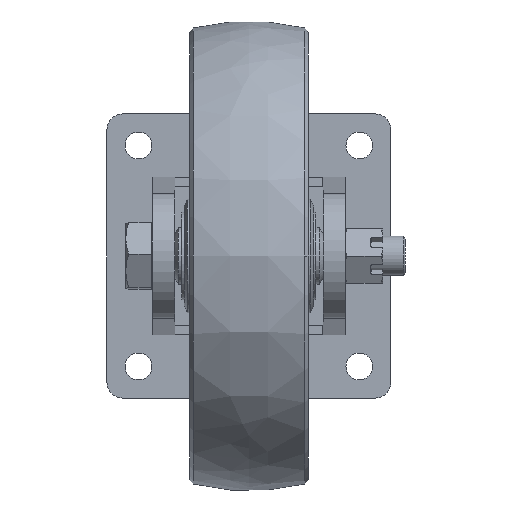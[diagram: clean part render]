
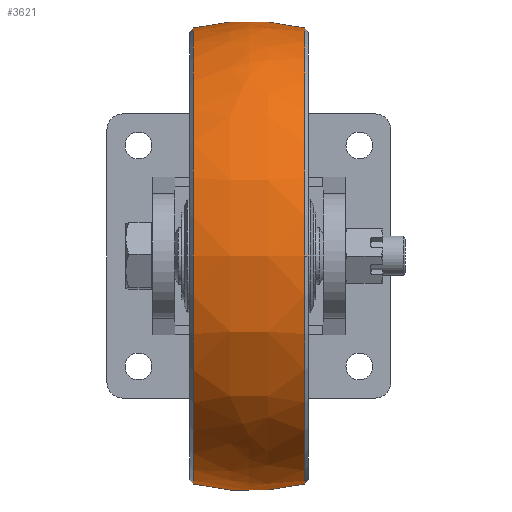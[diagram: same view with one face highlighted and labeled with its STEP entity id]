
A CAD part, front view. The second image highlights one B-rep face of the part: STEP entity #3621.
In plain terms, the highlighted free-form (B-spline) face has degree [3, 3] with [4, 4] control points.
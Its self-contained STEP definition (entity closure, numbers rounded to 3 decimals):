
#29 = DIRECTION ( 'NONE',  ( -1., 0., 0. ) ) ;
#106 = CARTESIAN_POINT ( 'NONE',  ( 71.045, -238.795, 0. ) ) ;
#507 = CARTESIAN_POINT ( 'NONE',  ( 47.685, -238.795, -150.227 ) ) ;
#541 = CARTESIAN_POINT ( 'NONE',  ( 71.045, -238.795, 144.532 ) ) ;
#642 = CIRCLE ( 'NONE', #3770, 144.532 ) ;
#1050 = DIRECTION ( 'NONE',  ( 0., 0., 1. ) ) ;
#1349 = ORIENTED_EDGE ( 'NONE', *, *, #8487, .T. ) ;
#1356 = EDGE_CURVE ( 'NONE', #4360, #10469, #642, .T. ) ;
#1359 = CARTESIAN_POINT ( 'NONE',  ( 23.64, -238.795, 150.227 ) ) ;
#1477 = EDGE_CURVE ( 'NONE', #9958, #4360, #5846, .T. ) ;
#1742 = CARTESIAN_POINT ( 'NONE',  ( 0.279, -238.795, -144.532 ) ) ;
#2069 = VERTEX_POINT ( 'NONE', #2335 ) ;
#2107 = CARTESIAN_POINT ( 'NONE',  ( 71.045, -238.795, -144.532 ) ) ;
#2330 = EDGE_LOOP ( 'NONE', ( #7044, #2418, #1349, #7536, #5324 ) ) ;
#2335 = CARTESIAN_POINT ( 'NONE',  ( 71.045, -238.795, -144.532 ) ) ;
#2418 = ORIENTED_EDGE ( 'NONE', *, *, #3679, .T. ) ;
#2850 = CARTESIAN_POINT ( 'NONE',  ( 71.045, -527.86, 144.532 ) ) ;
#2861 = AXIS2_PLACEMENT_3D ( 'NONE', #6424, #29, #6549 ) ;
#2890 = CARTESIAN_POINT ( 'NONE',  ( 23.64, -539.25, 150.227 ) ) ;
#3016 = CARTESIAN_POINT ( 'NONE',  ( 0.279, -238.795, 0. ) ) ;
#3076 = DIRECTION ( 'NONE',  ( 1., 0., 0. ) ) ;
#3621 = ADVANCED_FACE ( 'NONE', ( #4802 ), #6828, .T. ) ;
#3679 = EDGE_CURVE ( 'NONE', #2069, #5749, #9743, .T. ) ;
#3770 = AXIS2_PLACEMENT_3D ( 'NONE', #3016, #3076, #8728 ) ;
#3778 = CARTESIAN_POINT ( 'NONE',  ( 0.279, -238.795, 144.532 ) ) ;
#4360 = VERTEX_POINT ( 'NONE', #7140 ) ;
#4375 = AXIS2_PLACEMENT_3D ( 'NONE', #9674, #6519, #9747 ) ;
#4728 = CARTESIAN_POINT ( 'NONE',  ( 0.279, -527.86, 144.532 ) ) ;
#4802 = FACE_OUTER_BOUND ( 'NONE', #2330, .T. ) ;
#4843 = CARTESIAN_POINT ( 'NONE',  ( 71.045, -383.328, 0. ) ) ;
#4993 = DIRECTION ( 'NONE',  ( -1., 0., 0. ) ) ;
#5324 = ORIENTED_EDGE ( 'NONE', *, *, #1356, .T. ) ;
#5379 = CARTESIAN_POINT ( 'NONE',  ( 23.64, -539.25, -150.227 ) ) ;
#5560 = CARTESIAN_POINT ( 'NONE',  ( 0.279, -238.795, -144.532 ) ) ;
#5723 = DIRECTION ( 'NONE',  ( 0., 0., 1. ) ) ;
#5749 = VERTEX_POINT ( 'NONE', #4843 ) ;
#5846 = CIRCLE ( 'NONE', #8893, 149.392 ) ;
#5965 = CIRCLE ( 'NONE', #4375, 149.392 ) ;
#6414 = DIRECTION ( 'NONE',  ( 0., -1., 0. ) ) ;
#6424 = CARTESIAN_POINT ( 'NONE',  ( 71.045, -238.795, 0. ) ) ;
#6519 = DIRECTION ( 'NONE',  ( 0., 1., 0. ) ) ;
#6543 = CARTESIAN_POINT ( 'NONE',  ( 35.662, -238.795, -0.608 ) ) ;
#6549 = DIRECTION ( 'NONE',  ( 0., 0., 1. ) ) ;
#6828 =( BOUNDED_SURFACE ( )  B_SPLINE_SURFACE ( 3, 3, ( 
 ( #8591, #2850, #6941, #2107 ),
 ( #9473, #7764, #10300, #507 ),
 ( #1359, #2890, #5379, #7834 ),
 ( #3778, #4728, #7127, #5560 ) ),
 .UNSPECIFIED., .F., .F., .T. ) 
 B_SPLINE_SURFACE_WITH_KNOTS ( ( 4, 4 ),
 ( 4, 4 ),
 ( 0., 1. ),
 ( 0., 1. ),
 .UNSPECIFIED. ) 
 GEOMETRIC_REPRESENTATION_ITEM ( )  RATIONAL_B_SPLINE_SURFACE ( (
 ( 1., 0.333, 0.333, 1.),
 ( 0.981, 0.327, 0.327, 0.981),
 ( 0.981, 0.327, 0.327, 0.981),
 ( 1., 0.333, 0.333, 1.) ) ) 
 REPRESENTATION_ITEM ( '' )  SURFACE ( )  );
#6941 = CARTESIAN_POINT ( 'NONE',  ( 71.045, -527.86, -144.532 ) ) ;
#7044 = ORIENTED_EDGE ( 'NONE', *, *, #7487, .F. ) ;
#7056 = AXIS2_PLACEMENT_3D ( 'NONE', #106, #4993, #1050 ) ;
#7127 = CARTESIAN_POINT ( 'NONE',  ( 0.279, -527.86, -144.532 ) ) ;
#7140 = CARTESIAN_POINT ( 'NONE',  ( 0.279, -238.795, 144.532 ) ) ;
#7487 = EDGE_CURVE ( 'NONE', #2069, #10469, #5965, .T. ) ;
#7536 = ORIENTED_EDGE ( 'NONE', *, *, #1477, .T. ) ;
#7764 = CARTESIAN_POINT ( 'NONE',  ( 47.685, -539.25, 150.227 ) ) ;
#7834 = CARTESIAN_POINT ( 'NONE',  ( 23.64, -238.795, -150.227 ) ) ;
#8356 = CIRCLE ( 'NONE', #2861, 144.532 ) ;
#8487 = EDGE_CURVE ( 'NONE', #5749, #9958, #8356, .T. ) ;
#8591 = CARTESIAN_POINT ( 'NONE',  ( 71.045, -238.795, 144.532 ) ) ;
#8728 = DIRECTION ( 'NONE',  ( 0., 0., 1. ) ) ;
#8893 = AXIS2_PLACEMENT_3D ( 'NONE', #6543, #6414, #5723 ) ;
#9473 = CARTESIAN_POINT ( 'NONE',  ( 47.685, -238.795, 150.227 ) ) ;
#9674 = CARTESIAN_POINT ( 'NONE',  ( 35.662, -238.795, 0.608 ) ) ;
#9743 = CIRCLE ( 'NONE', #7056, 144.532 ) ;
#9747 = DIRECTION ( 'NONE',  ( 0., 0., -1. ) ) ;
#9958 = VERTEX_POINT ( 'NONE', #541 ) ;
#10300 = CARTESIAN_POINT ( 'NONE',  ( 47.685, -539.25, -150.227 ) ) ;
#10469 = VERTEX_POINT ( 'NONE', #1742 ) ;
